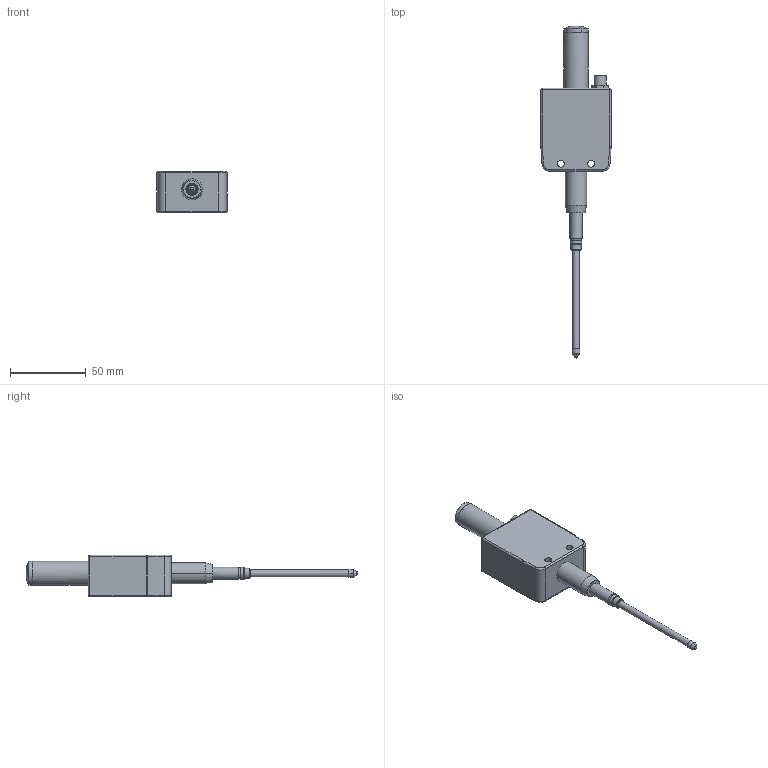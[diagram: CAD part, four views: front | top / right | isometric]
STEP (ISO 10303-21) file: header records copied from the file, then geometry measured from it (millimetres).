
FILE_DESCRIPTION(/* description */ (''),/* implementation_level */ '2;1');
FILE_NAME(/* name */ '30 百分绝对值 测头.stp',/* time_stamp */ '2026-01-21T10:55:18+08:00',/* author */ (''),/* organization */ (''),/* preprocessor_version */ 'ST-DEVELOPER v16.7',/* originating_system */ 'SIEMENS PLM Software NX 1919',/* authorisation */ '');
FILE_SCHEMA (('AUTOMOTIVE_DESIGN { 1 0 10303 214 3 1 1 1 }'));
Length unit declared in the file: millimetre
Products named in the file (1): jzBA7C52436zn4
Bounding box: 46.5 x 219.58 x 27.5 mm (x, y, z)
Volume: 76153.4 mm3; surface area: 19942.3 mm2
Topology: 1 solids, 7 shells, 138 faces, 306 edges, 192 vertices
Faces by surface type: cylinder 58, plane 46, cone 14, torus 10, sphere 8, bspline 2
Full cylindrical faces by diameter (mm): 2 x1, 3 x1, 3.7 x1, 4.5 x4, 5 x1, 5.5 x1, 6.7 x1, 7 x1, 7.9 x1, 8 x2, 13.5 x1, 14 x2, 15 x1, 16 x1
Entity records: 4851 total; most frequent: CARTESIAN_POINT 1073, DIRECTION 664, ORIENTED_EDGE 506, AXIS2_PLACEMENT_3D 284, EDGE_CURVE 253, EDGE_LOOP 191, VERTEX_POINT 173, CIRCLE 147
